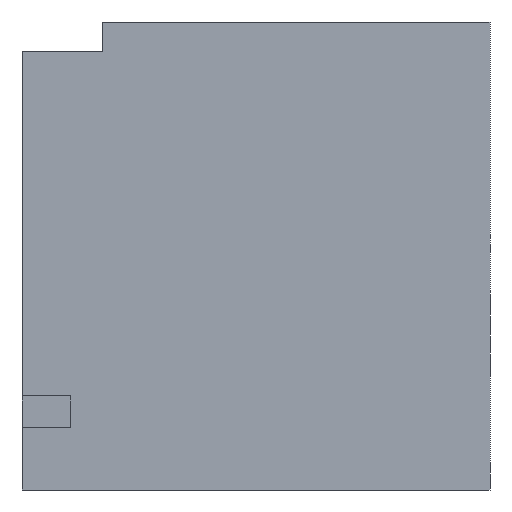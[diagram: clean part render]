
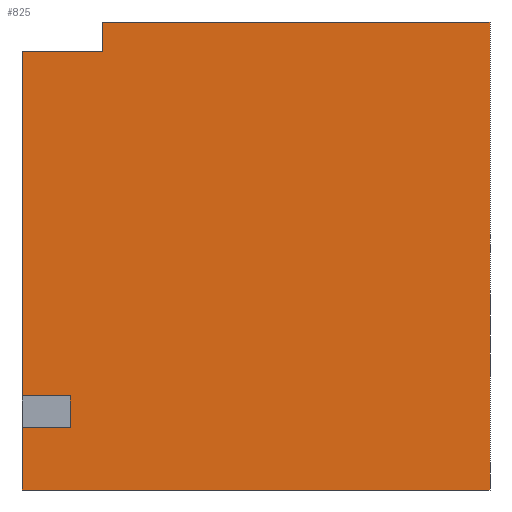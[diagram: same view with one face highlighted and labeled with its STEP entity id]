
A CAD part, front view. The second image highlights one B-rep face of the part: STEP entity #825.
In plain terms, the highlighted planar face has unit normal (0, -1, 0).
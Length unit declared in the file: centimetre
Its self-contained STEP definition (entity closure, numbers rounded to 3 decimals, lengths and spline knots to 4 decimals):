
#3 = VECTOR ( 'NONE', #1703, 100. ) ;
#33 = CARTESIAN_POINT ( 'NONE',  ( 0., 0., 937.6305 ) ) ;
#41 = CARTESIAN_POINT ( 'NONE',  ( 102.7055, 0., 133.0127 ) ) ;
#51 = VERTEX_POINT ( 'NONE', #1152 ) ;
#63 = ORIENTED_EDGE ( 'NONE', *, *, #1247, .F. ) ;
#67 = DIRECTION ( 'NONE',  ( 0., 0., -1. ) ) ;
#113 = EDGE_CURVE ( 'NONE', #51, #1046, #1306, .T. ) ;
#114 = ORIENTED_EDGE ( 'NONE', *, *, #1677, .F. ) ;
#115 = EDGE_CURVE ( 'NONE', #1739, #1188, #1687, .T. ) ;
#168 = VERTEX_POINT ( 'NONE', #501 ) ;
#182 = VECTOR ( 'NONE', #982, 100. ) ;
#189 = VERTEX_POINT ( 'NONE', #1078 ) ;
#216 = CARTESIAN_POINT ( 'NONE',  ( 0., 0., 1000. ) ) ;
#225 = AXIS2_PLACEMENT_3D ( 'NONE', #216, #372, #1499 ) ;
#276 = CARTESIAN_POINT ( 'NONE',  ( 1000., 0., 0. ) ) ;
#333 = CARTESIAN_POINT ( 'NONE',  ( 171.8716, 0., 937.6305 ) ) ;
#372 = DIRECTION ( 'NONE',  ( 0., 1., 0. ) ) ;
#422 = CARTESIAN_POINT ( 'NONE',  ( 0., 0., 201.1462 ) ) ;
#453 = ORIENTED_EDGE ( 'NONE', *, *, #113, .F. ) ;
#457 = ORIENTED_EDGE ( 'NONE', *, *, #558, .F. ) ;
#473 = EDGE_CURVE ( 'NONE', #1147, #1638, #1356, .T. ) ;
#478 = ORIENTED_EDGE ( 'NONE', *, *, #1723, .T. ) ;
#496 = EDGE_CURVE ( 'NONE', #1188, #189, #1220, .T. ) ;
#501 = CARTESIAN_POINT ( 'NONE',  ( 171.8716, 0., 1000. ) ) ;
#539 = LINE ( 'NONE', #577, #1503 ) ;
#558 = EDGE_CURVE ( 'NONE', #168, #653, #1436, .T. ) ;
#572 = DIRECTION ( 'NONE',  ( 1., 0., 0. ) ) ;
#577 = CARTESIAN_POINT ( 'NONE',  ( 0., 0., 1000. ) ) ;
#588 = DIRECTION ( 'NONE',  ( 1., 0., 0. ) ) ;
#652 = DIRECTION ( 'NONE',  ( 0., 0., -1. ) ) ;
#653 = VERTEX_POINT ( 'NONE', #1555 ) ;
#688 = VECTOR ( 'NONE', #572, 100. ) ;
#704 = CARTESIAN_POINT ( 'NONE',  ( 102.7055, 0., 133.0127 ) ) ;
#721 = VECTOR ( 'NONE', #652, 100. ) ;
#737 = LINE ( 'NONE', #1450, #929 ) ;
#805 = EDGE_CURVE ( 'NONE', #1739, #1147, #1641, .T. ) ;
#825 = ADVANCED_FACE ( 'NONE', ( #1049 ), #1199, .F. ) ;
#872 = CARTESIAN_POINT ( 'NONE',  ( 0., 0., 1000. ) ) ;
#929 = VECTOR ( 'NONE', #67, 100. ) ;
#965 = CARTESIAN_POINT ( 'NONE',  ( 0., 0., 133.0127 ) ) ;
#975 = VECTOR ( 'NONE', #588, 100. ) ;
#982 = DIRECTION ( 'NONE',  ( -1., 0., 0. ) ) ;
#1046 = VERTEX_POINT ( 'NONE', #1791 ) ;
#1049 = FACE_OUTER_BOUND ( 'NONE', #1696, .T. ) ;
#1078 = CARTESIAN_POINT ( 'NONE',  ( 102.7055, 0., 201.1462 ) ) ;
#1100 = VECTOR ( 'NONE', #1318, 100. ) ;
#1140 = DIRECTION ( 'NONE',  ( 0., 0., -1. ) ) ;
#1147 = VERTEX_POINT ( 'NONE', #1303 ) ;
#1152 = CARTESIAN_POINT ( 'NONE',  ( 0., 0., 937.6305 ) ) ;
#1156 = DIRECTION ( 'NONE',  ( 0., 0., 1. ) ) ;
#1170 = EDGE_CURVE ( 'NONE', #1046, #168, #1458, .T. ) ;
#1187 = CARTESIAN_POINT ( 'NONE',  ( 0., 0., 1000. ) ) ;
#1188 = VERTEX_POINT ( 'NONE', #41 ) ;
#1193 = VECTOR ( 'NONE', #1156, 100. ) ;
#1199 = PLANE ( 'NONE',  #225 ) ;
#1220 = LINE ( 'NONE', #704, #1513 ) ;
#1247 = EDGE_CURVE ( 'NONE', #653, #1638, #737, .T. ) ;
#1265 = ORIENTED_EDGE ( 'NONE', *, *, #473, .T. ) ;
#1266 = ORIENTED_EDGE ( 'NONE', *, *, #805, .T. ) ;
#1283 = ORIENTED_EDGE ( 'NONE', *, *, #496, .F. ) ;
#1303 = CARTESIAN_POINT ( 'NONE',  ( 0., 0., 0. ) ) ;
#1306 = LINE ( 'NONE', #33, #975 ) ;
#1318 = DIRECTION ( 'NONE',  ( 1., 0., 0. ) ) ;
#1356 = LINE ( 'NONE', #1811, #688 ) ;
#1374 = ORIENTED_EDGE ( 'NONE', *, *, #1170, .F. ) ;
#1404 = VERTEX_POINT ( 'NONE', #1494 ) ;
#1436 = LINE ( 'NONE', #872, #1100 ) ;
#1450 = CARTESIAN_POINT ( 'NONE',  ( 1000., 0., 1000. ) ) ;
#1458 = LINE ( 'NONE', #333, #1193 ) ;
#1494 = CARTESIAN_POINT ( 'NONE',  ( 0., 0., 201.1462 ) ) ;
#1499 = DIRECTION ( 'NONE',  ( 0., 0., 1. ) ) ;
#1503 = VECTOR ( 'NONE', #1140, 100. ) ;
#1513 = VECTOR ( 'NONE', #1637, 100. ) ;
#1555 = CARTESIAN_POINT ( 'NONE',  ( 1000., 0., 1000. ) ) ;
#1637 = DIRECTION ( 'NONE',  ( 0., 0., 1. ) ) ;
#1638 = VERTEX_POINT ( 'NONE', #276 ) ;
#1641 = LINE ( 'NONE', #1187, #721 ) ;
#1674 = LINE ( 'NONE', #422, #182 ) ;
#1677 = EDGE_CURVE ( 'NONE', #189, #1404, #1674, .T. ) ;
#1687 = LINE ( 'NONE', #1713, #3 ) ;
#1696 = EDGE_LOOP ( 'NONE', ( #478, #114, #1283, #1793, #1266, #1265, #63, #457, #1374, #453 ) ) ;
#1703 = DIRECTION ( 'NONE',  ( 1., 0., 0. ) ) ;
#1713 = CARTESIAN_POINT ( 'NONE',  ( 0., 0., 133.0127 ) ) ;
#1723 = EDGE_CURVE ( 'NONE', #51, #1404, #539, .T. ) ;
#1739 = VERTEX_POINT ( 'NONE', #965 ) ;
#1791 = CARTESIAN_POINT ( 'NONE',  ( 171.8716, 0., 937.6305 ) ) ;
#1793 = ORIENTED_EDGE ( 'NONE', *, *, #115, .F. ) ;
#1811 = CARTESIAN_POINT ( 'NONE',  ( 0., 0., 0. ) ) ;
